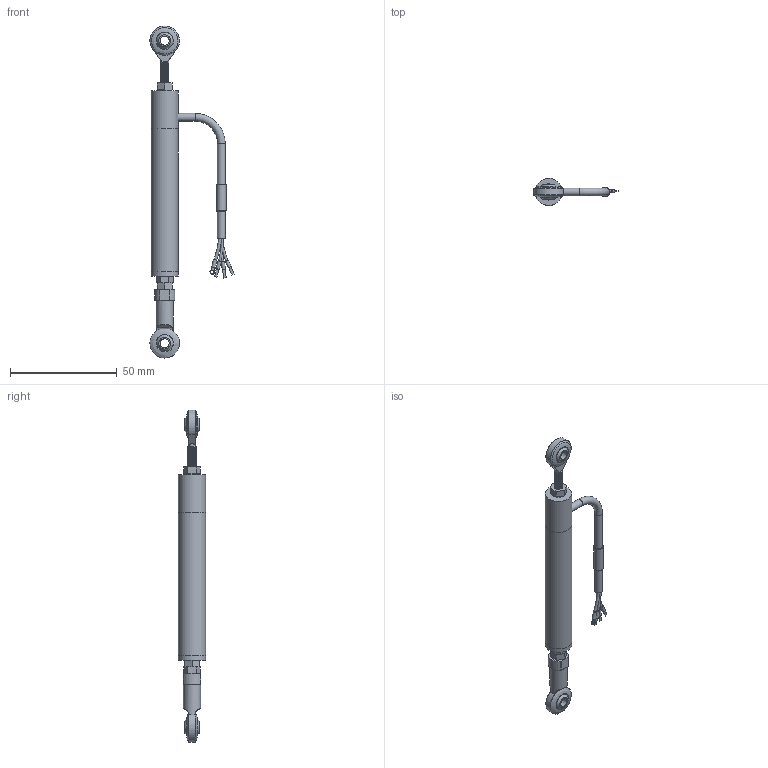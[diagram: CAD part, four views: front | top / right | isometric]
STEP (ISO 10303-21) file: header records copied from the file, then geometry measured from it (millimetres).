
FILE_DESCRIPTION(/* description */ (''),/* implementation_level */ '2;1');
FILE_NAME(/* name */ 'LPPS-12-025-R Assembly (wrapped).step',/* time_stamp */ '2023-10-10T14:07:48-04:00',/* author */ ('TSC_Grant'),/* organization */ (''),/* preprocessor_version */ 'ST-DEVELOPER v19.2',/* originating_system */ 'Autodesk Inventor 2024',/* authorisation */ '');
FILE_SCHEMA (('AUTOMOTIVE_DESIGN { 1 0 10303 214 3 1 1 }'));
Length unit declared in the file: inch
Products named in the file (4): LPPS-12-010-R Assembly (wrapped); LPPS-12-010-R Body (wrapped); LPPS-12-010-R Spoiler (wrapped); Wire
Assembly tree (3 placements, depth 2):
  LPPS-12-010-R Assembly (wrapped)
    LPPS-12-010-R Body (wrapped)
    LPPS-12-010-R Spoiler (wrapped)
    Wire
Bounding box: 39.48 x 12.7 x 155.7 mm (x, y, z)
Volume: 13956.6 mm3; surface area: 9054.5 mm2
Topology: 13 solids, 13 shells, 200 faces, 462 edges, 306 vertices
Faces by surface type: plane 94, cylinder 74, bspline 21, torus 7, sphere 4
Full cylindrical faces by diameter (mm): 1.016 x3, 1.27 x1, 1.524 x3, 1.651 x2, 3.632 x5, 3.937 x14, 4.14 x2, 4.191 x1, 4.445 x1, 6.604 x1, 8.001 x1, 12.7 x3
Entity records: 9510 total; most frequent: CARTESIAN_POINT 4641, ORIENTED_EDGE 924, DIRECTION 895, EDGE_CURVE 462, AXIS2_PLACEMENT_3D 345, VERTEX_POINT 306, EDGE_LOOP 228, LINE 205
